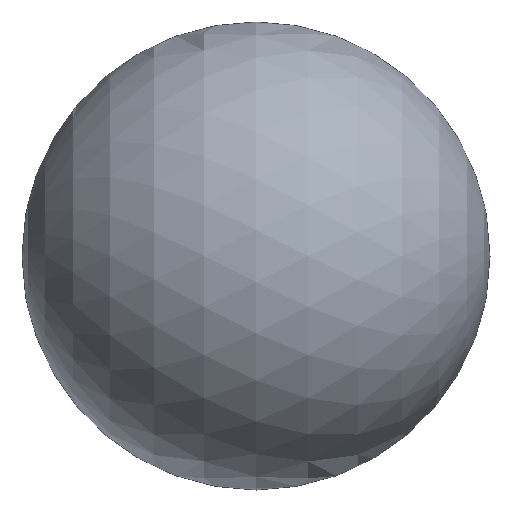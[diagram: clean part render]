
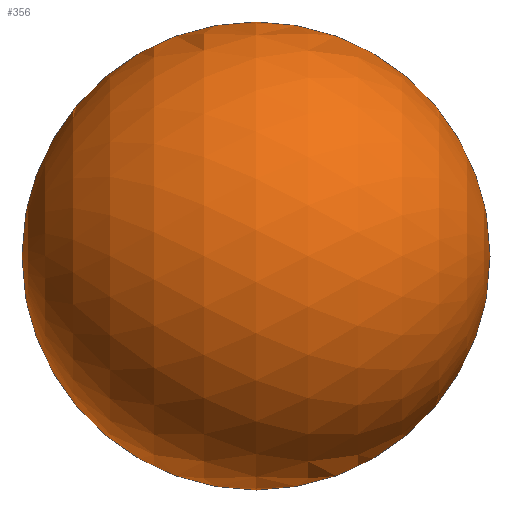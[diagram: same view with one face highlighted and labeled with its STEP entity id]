
A CAD part, front view. The second image highlights one B-rep face of the part: STEP entity #356.
In plain terms, the highlighted spherical face has radius 3 mm.
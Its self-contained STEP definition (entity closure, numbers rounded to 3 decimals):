
#321=CARTESIAN_POINT('',(0.,0.,0.));
#322=DIRECTION('',(0.,1.,0.));
#323=DIRECTION('',(1.,0.,0.));
#324=AXIS2_PLACEMENT_3D('',#321,#322,#323);
#326=CARTESIAN_POINT('',(0.,0.,0.));
#327=DIRECTION('',(0.,-1.,0.));
#328=DIRECTION('',(1.,0.,0.));
#329=AXIS2_PLACEMENT_3D('',#326,#327,#328);
#331=CARTESIAN_POINT('',(3.,0.,0.));
#332=CARTESIAN_POINT('',(-3.,0.,0.));
#333=VERTEX_POINT('',#331);
#334=VERTEX_POINT('',#332);
#347=CARTESIAN_POINT('',(0.,0.,0.));
#348=DIRECTION('',(1.,0.,0.));
#349=DIRECTION('',(0.,0.,1.));
#350=AXIS2_PLACEMENT_3D('',#347,#348,#349);
#351=SPHERICAL_SURFACE('',#350,3.);
#352=ORIENTED_EDGE('',*,*,#340,.T.);
#353=ORIENTED_EDGE('',*,*,#342,.F.);
#354=EDGE_LOOP('',(#352,#353));
#355=FACE_OUTER_BOUND('',#354,.F.);
#356=ADVANCED_FACE('',(#355),#351,.T.);
#325=CIRCLE('',#324,3.);
#330=CIRCLE('',#329,3.);
#340=EDGE_CURVE('',#333,#334,#325,.T.);
#342=EDGE_CURVE('',#333,#334,#330,.T.);
